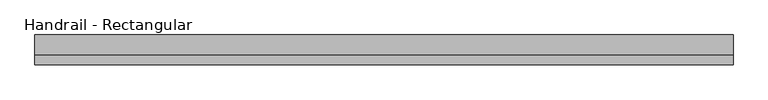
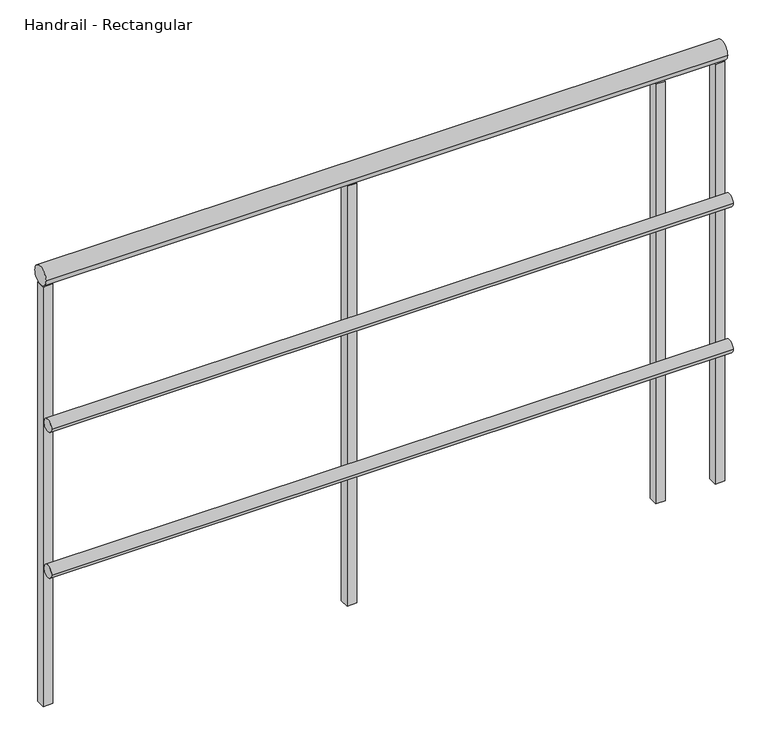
"""IFC4 building model written with IfcOpenShell, lengths in millimetres: railing geometry, Handrail - Rectangular."""

from ifc_helpers import new_model, si_unit, point, frame, frame_2d, origin, place, context, project, spatial, polyline, circle_curve, trimmed, segment, composite_curve, outline, extrude, source, transform, mapped, element, save


def handrail_rectangular_5dab1a18(model_context):
    return source(origin(), model_context, "Body", "SweptSolid", [
        extrude(outline(composite_curve([segment(trimmed(circle_curve(frame_2d((-35578.5683133, 9740.9)), 12.7), [point((-35591.2683133, 9740.9))], [point((-35565.8683133, 9740.9))], False, "CARTESIAN"), True, "CONTINUOUS"), segment(trimmed(circle_curve(frame_2d((-35578.5683133, 9740.9)), 12.7), [point((-35565.8683133, 9740.9))], [point((-35591.2683133, 9740.9))], False, "CARTESIAN"), True, "CONTINUOUS")], self_intersect=False)), frame((-5665.7589563, 0.0, 0.0), z_axis=(1.0, 0.0, 0.0), x_axis=(0.0, 1.0, 0.0)), (0.0, 0.0, 1.0), 1346.2),
        extrude(outline(composite_curve([segment(trimmed(circle_curve(frame_2d((-35578.5683133, 9436.1)), 12.7), [point((-35591.2683133, 9436.1))], [point((-35565.8683133, 9436.1))], False, "CARTESIAN"), True, "CONTINUOUS"), segment(trimmed(circle_curve(frame_2d((-35578.5683133, 9436.1)), 12.7), [point((-35565.8683133, 9436.1))], [point((-35591.2683133, 9436.1))], False, "CARTESIAN"), True, "CONTINUOUS")], self_intersect=False)), frame((-5665.7589563, 0.0, 0.0), z_axis=(1.0, 0.0, 0.0), x_axis=(0.0, 1.0, 0.0)), (0.0, 0.0, 1.0), 1346.2),
        extrude(outline(composite_curve([segment(trimmed(circle_curve(frame_2d((-35553.1683133, 10039.35)), 19.05), [point((-35572.2183133, 10039.35))], [point((-35534.1183133, 10039.35))], False, "CARTESIAN"), True, "CONTINUOUS"), segment(trimmed(circle_curve(frame_2d((-35553.1683133, 10039.35)), 19.05), [point((-35534.1183133, 10039.35))], [point((-35572.2183133, 10039.35))], False, "CARTESIAN"), True, "CONTINUOUS")], self_intersect=False)), frame((-5665.7589563, 0.0, 0.0), z_axis=(1.0, 0.0, 0.0), x_axis=(0.0, 1.0, 0.0)), (0.0, 0.0, 1.0), 1346.2),
        extrude(outline(polyline([(-4456.0839563, -35543.6433133), (-4437.0339563, -35543.6433133), (-4437.0339563, -35562.6933133), (-4456.0839563, -35562.6933133), (-4456.0839563, -35543.6433133)])), frame((0.0, 0.0, 9144.0), z_axis=(0.0, 0.0, 1.0), x_axis=(1.0, 0.0, 0.0)), (0.0, 0.0, 1.0), 876.3),
        extrude(outline(polyline([(-5065.6839563, -35543.6433133), (-5046.6339563, -35543.6433133), (-5046.6339563, -35562.6933133), (-5065.6839563, -35562.6933133), (-5065.6839563, -35543.6433133)])), frame((0.0, 0.0, 9144.0), z_axis=(0.0, 0.0, 1.0), x_axis=(1.0, 0.0, 0.0)), (0.0, 0.0, 1.0), 876.3),
        extrude(outline(polyline([(-4338.6089563, -35543.6433133), (-4319.5589563, -35543.6433133), (-4319.5589563, -35562.6933133), (-4338.6089563, -35562.6933133), (-4338.6089563, -35543.6433133)])), frame((0.0, 0.0, 9144.0), z_axis=(0.0, 0.0, 1.0), x_axis=(1.0, 0.0, 0.0)), (0.0, 0.0, 1.0), 876.3),
        extrude(outline(polyline([(-5665.7589563, -35543.6433133), (-5646.7089563, -35543.6433133), (-5646.7089563, -35562.6933133), (-5665.7589563, -35562.6933133), (-5665.7589563, -35543.6433133)])), frame((0.0, 0.0, 9144.0), z_axis=(0.0, 0.0, 1.0), x_axis=(1.0, 0.0, 0.0)), (0.0, 0.0, 1.0), 876.3),
    ])


if __name__ == "__main__":
    model = new_model("IFC4")
    model_context = context("Model", 3, world=origin())
    ifc_project = project(units=[si_unit("LENGTHUNIT", "METRE", prefix="MILLI")], contexts=[model_context])
    site = spatial("IfcSite", under=ifc_project)
    building = spatial("IfcBuilding", under=site)
    placement = place(None, origin())
    handrail_rectangular_shape = handrail_rectangular_5dab1a18(model_context)
    element("IfcRailing", 1, ObjectType="Handrail - Rectangular", at=placement, inside=building, context=model_context, shape_type="MappedRepresentation", body=[
        mapped(handrail_rectangular_shape, transform((0.0, 0.0, 0.0), x_axis=(1.0, 0.0, 0.0), y_axis=(0.0, 1.0, 0.0), z_axis=(0.0, 0.0, 1.0))),
    ])
    save(model, "model.ifc")
